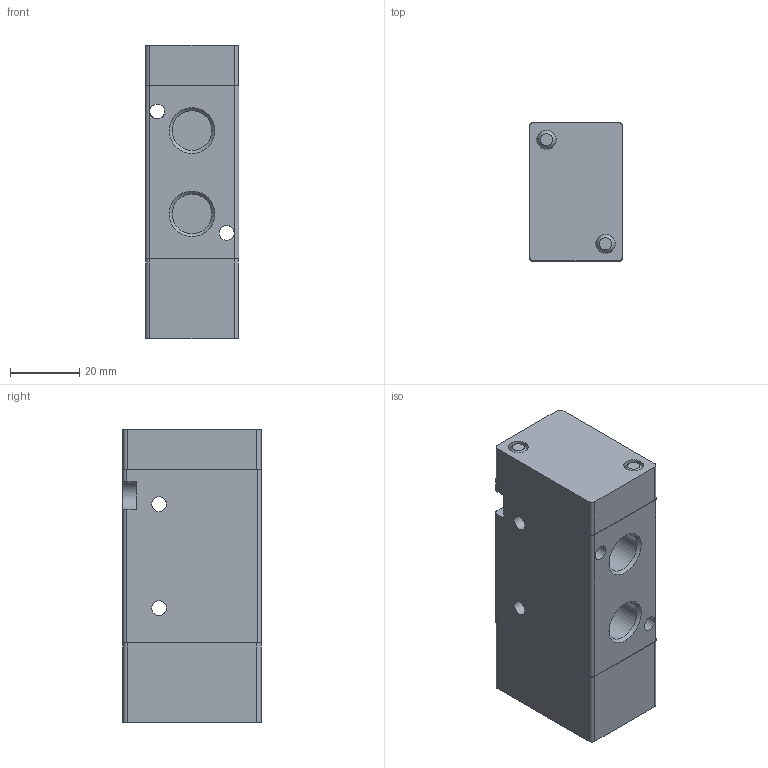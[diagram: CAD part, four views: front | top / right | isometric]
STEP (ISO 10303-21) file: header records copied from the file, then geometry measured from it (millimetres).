
FILE_DESCRIPTION( ( 'STEP AP214' ), '1' );
FILE_NAME( 'C:/Users/EMC02301/Desktop/1/RVA3231H-08Q.stp', '2026-07-30T03:48:46', ( 'License CC BY-ND 4.0' ), ( 'CADENAS' ), ' ', 'PARTsolutions', ' ' );
FILE_SCHEMA( ( 'AUTOMOTIVE_DESIGN { 1 0 10303 214 1 1 1 1 }' ) );
Length unit declared in the file: millimetre
Products named in the file (1): _RVA3231H-08Q
Bounding box: 27 x 40 x 84.6 mm (x, y, z)
Volume: 83860.3 mm3; surface area: 16768.5 mm2
Topology: 1 solids, 1 shells, 66 faces, 162 edges, 107 vertices
Faces by surface type: plane 30, cylinder 28, cone 4, sphere 4
Full cylindrical faces by diameter (mm): 4.3 x4, 5.6 x4, 8.566 x1, 11.445 x3
Entity records: 2510 total; most frequent: CARTESIAN_POINT 435, DIRECTION 332, ORIENTED_EDGE 272, EDGE_CURVE 136, AXIS2_PLACEMENT_3D 131, EDGE_LOOP 108, VERTEX_POINT 102, FACE_OUTER_BOUND 82
